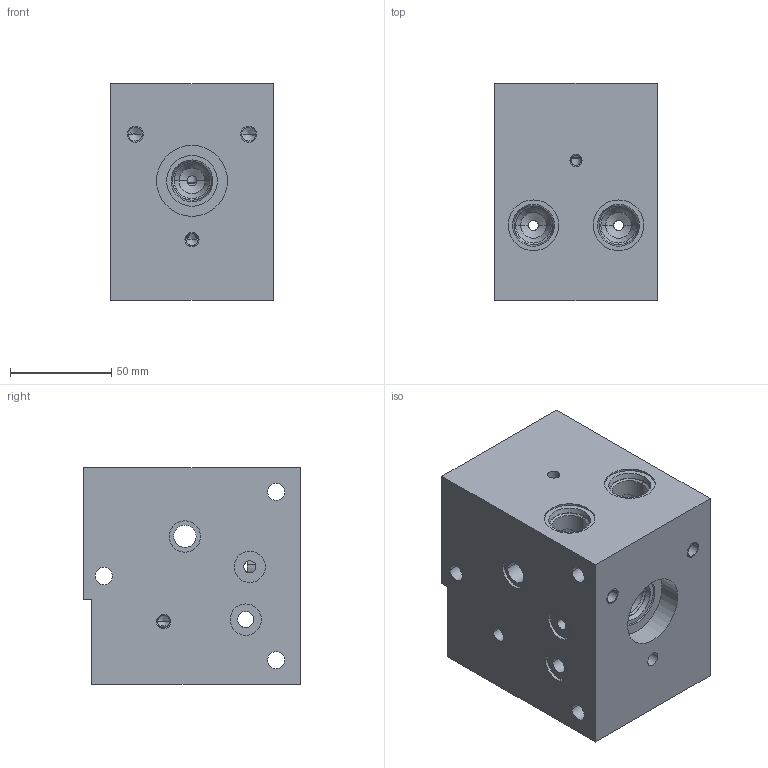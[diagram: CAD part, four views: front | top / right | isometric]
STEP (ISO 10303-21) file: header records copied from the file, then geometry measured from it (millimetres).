
FILE_DESCRIPTION((''),'2;1');
FILE_NAME('420732','2025-06-27T08:30:39',('PoolNonAdmin20246345'),(''),'CREO PARAMETRIC BY PTC INC, 2025102','CREO PARAMETRIC BY PTC INC, 2025102','');
FILE_SCHEMA(('AUTOMOTIVE_DESIGN { 1 0 10303 214 1 1 1 1 }'));
Products named in the file (1): 420732
Bounding box: 80 x 107 x 107 mm (x, y, z)
Volume: 786122.2 mm3; surface area: 101318.1 mm2
Topology: 1 solids, 15 shells, 304 faces, 1042 edges, 771 vertices
Faces by surface type: cylinder 172, cone 97, plane 35
Entity records: 201331 total; most frequent: CARTESIAN_POINT 154252, POLYLINE 31712, DIRECTION 2156, ORIENTED_EDGE 1470, PRESENTATION_STYLE_ASSIGNMENT 1253, CURVE_STYLE 1205, STYLED_ITEM 1122, AXIS2_PLACEMENT_3D 786
